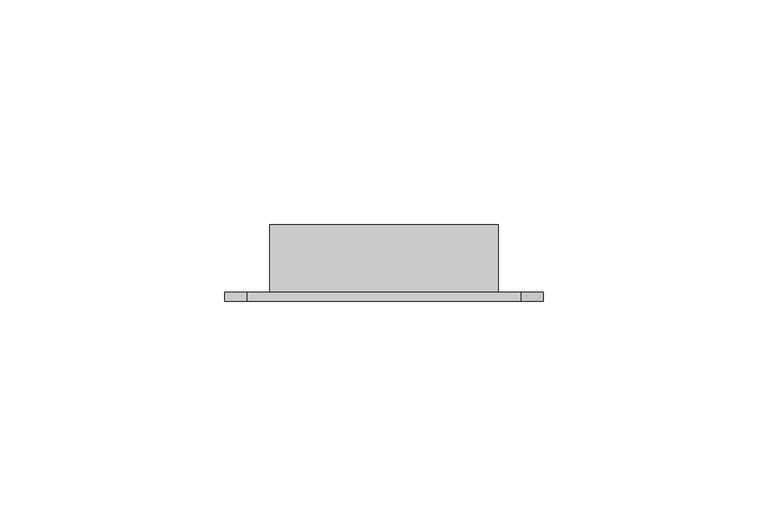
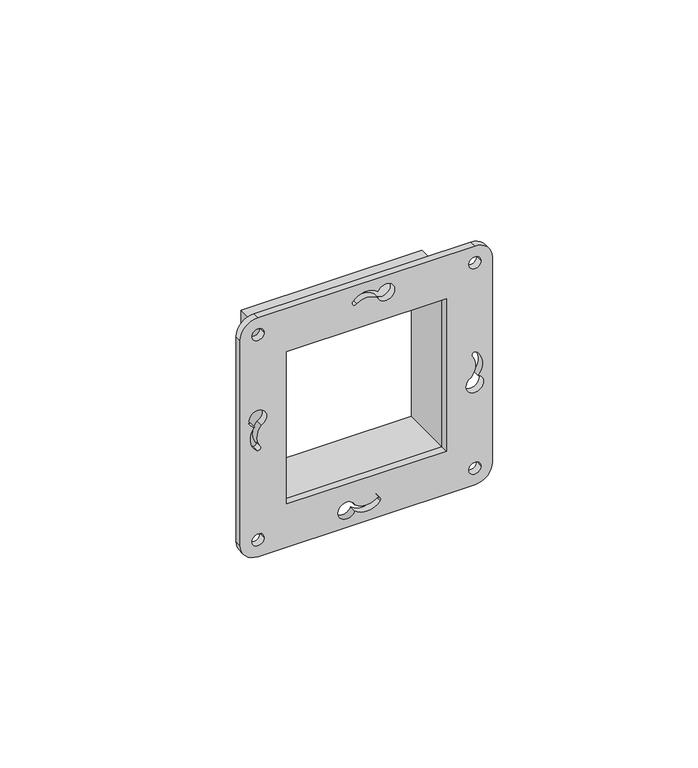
"""IFC4 building model written with IfcOpenShell, lengths in millimetres: proxy geometry, КНС_КаркасыДляМонтажаЭУИBravaВСтеныИКоробкиPDD-N60_DKC : 2 модуля."""

from ifc_helpers import new_model, si_unit, point, frame, frame_2d, origin, place, context, project, spatial, polyline, circle_curve, trimmed, segment, composite_curve, outline, extrude, source, transform, mapped, element, save


def electrical_fixtures_93c86673(model_context):
    return source(origin(), model_context, "Body", "SweptSolid", [
        extrude(outline(composite_curve([segment(polyline([(35.45, 30.45), (35.45, -30.45)]), True, "CONTINUOUS"), segment(trimmed(circle_curve(frame_2d((30.45, -30.45)), 5.0), [point((35.45, -30.45))], [point((30.45, -35.45))], False, "CARTESIAN"), True, "CONTINUOUS"), segment(polyline([(30.45, -35.45), (-30.45, -35.45)]), True, "CONTINUOUS"), segment(trimmed(circle_curve(frame_2d((-30.45, -30.45)), 5.0), [point((-30.45, -35.45))], [point((-35.45, -30.45))], False, "CARTESIAN"), True, "CONTINUOUS"), segment(polyline([(-35.45, -30.45), (-35.45, 30.45)]), True, "CONTINUOUS"), segment(trimmed(circle_curve(frame_2d((-30.45, 30.45)), 5.0), [point((-35.45, 30.45))], [point((-30.45, 35.45))], False, "CARTESIAN"), True, "CONTINUOUS"), segment(polyline([(-30.45, 35.45), (30.45, 35.45)]), True, "CONTINUOUS"), segment(trimmed(circle_curve(frame_2d((30.45, 30.45)), 5.0), [point((30.45, 35.45))], [point((35.45, 30.45))], False, "CARTESIAN"), True, "CONTINUOUS")], self_intersect=False), holes=[composite_curve([segment(trimmed(circle_curve(frame_2d((27.6263139, 0.0)), 5.0), [point((30.9017143, -3.7777973))], [point((31.4041112, 3.2754004))], True, "CARTESIAN"), True, "CONTINUOUS"), segment(trimmed(circle_curve(frame_2d((30.4923961, 5.5373597)), 2.4387876), [point((31.4041112, 3.2754004))], [point((29.5806809, 3.2754004))], True, "CARTESIAN"), True, "CONTINUOUS"), segment(trimmed(circle_curve(frame_2d((25.8028836, 0.0)), 5.0), [point((29.5806809, 3.2754004))], [point((29.9366866, -2.8127696))], False, "CARTESIAN"), True, "CONTINUOUS"), segment(trimmed(circle_curve(frame_2d((30.4535697, -3.2609142)), 0.6841065), [point((29.9366866, -2.8127696))], [point((30.9017143, -3.7777973))], True, "CARTESIAN"), True, "CONTINUOUS")], self_intersect=False), composite_curve([segment(trimmed(circle_curve(frame_2d((-27.6263139, 0.0)), 5.0), [point((-30.9017143, 3.7777973))], [point((-31.4041112, -3.2754004))], True, "CARTESIAN"), True, "CONTINUOUS"), segment(trimmed(circle_curve(frame_2d((-30.4923961, -5.5373597)), 2.4387876), [point((-31.4041112, -3.2754004))], [point((-29.5806809, -3.2754004))], True, "CARTESIAN"), True, "CONTINUOUS"), segment(trimmed(circle_curve(frame_2d((-25.8028836, 0.0)), 5.0), [point((-29.5806809, -3.2754004))], [point((-29.9366866, 2.8127696))], False, "CARTESIAN"), True, "CONTINUOUS"), segment(trimmed(circle_curve(frame_2d((-30.4535697, 3.2609142)), 0.6841065), [point((-29.9366866, 2.8127696))], [point((-30.9017143, 3.7777973))], True, "CARTESIAN"), True, "CONTINUOUS")], self_intersect=False), composite_curve([segment(trimmed(circle_curve(frame_2d((0.0, 27.6263139)), 5.0), [point((3.7777973, 30.9017143))], [point((-3.2754004, 31.4041112))], True, "CARTESIAN"), True, "CONTINUOUS"), segment(trimmed(circle_curve(frame_2d((-5.5373597, 30.4923961)), 2.4387876), [point((-3.2754004, 31.4041112))], [point((-3.2754004, 29.5806809))], True, "CARTESIAN"), True, "CONTINUOUS"), segment(trimmed(circle_curve(frame_2d((0.0, 25.8028836)), 5.0), [point((-3.2754004, 29.5806809))], [point((2.8127696, 29.9366866))], False, "CARTESIAN"), True, "CONTINUOUS"), segment(trimmed(circle_curve(frame_2d((3.2609142, 30.4535697)), 0.6841065), [point((2.8127696, 29.9366866))], [point((3.7777973, 30.9017143))], True, "CARTESIAN"), True, "CONTINUOUS")], self_intersect=False), composite_curve([segment(trimmed(circle_curve(frame_2d((0.0, -27.6263139)), 5.0), [point((-3.7777973, -30.9017143))], [point((3.2754004, -31.4041112))], True, "CARTESIAN"), True, "CONTINUOUS"), segment(trimmed(circle_curve(frame_2d((5.5373597, -30.4923961)), 2.4387876), [point((3.2754004, -31.4041112))], [point((3.2754004, -29.5806809))], True, "CARTESIAN"), True, "CONTINUOUS"), segment(trimmed(circle_curve(frame_2d((0.0, -25.8028836)), 5.0), [point((3.2754004, -29.5806809))], [point((-2.8127696, -29.9366866))], False, "CARTESIAN"), True, "CONTINUOUS"), segment(trimmed(circle_curve(frame_2d((-3.2609142, -30.4535697)), 0.6841065), [point((-2.8127696, -29.9366866))], [point((-3.7777973, -30.9017143))], True, "CARTESIAN"), True, "CONTINUOUS")], self_intersect=False), composite_curve([segment(trimmed(circle_curve(frame_2d((30.4923961, -30.4923961)), 1.707129), [point((30.4923961, -28.785267))], [point((30.4923961, -32.1995251))], True, "CARTESIAN"), True, "CONTINUOUS"), segment(trimmed(circle_curve(frame_2d((30.4923961, -30.4923961)), 1.707129), [point((30.4923961, -32.1995251))], [point((30.4923961, -28.785267))], True, "CARTESIAN"), True, "CONTINUOUS")], self_intersect=False), composite_curve([segment(trimmed(circle_curve(frame_2d((-30.4923961, -30.4923961)), 1.707129), [point((-30.4923961, -28.785267))], [point((-30.4923961, -32.1995251))], True, "CARTESIAN"), True, "CONTINUOUS"), segment(trimmed(circle_curve(frame_2d((-30.4923961, -30.4923961)), 1.707129), [point((-30.4923961, -32.1995251))], [point((-30.4923961, -28.785267))], True, "CARTESIAN"), True, "CONTINUOUS")], self_intersect=False), composite_curve([segment(trimmed(circle_curve(frame_2d((30.4923961, 30.4923961)), 1.707129), [point((30.4923961, 32.1995251))], [point((30.4923961, 28.785267))], True, "CARTESIAN"), True, "CONTINUOUS"), segment(trimmed(circle_curve(frame_2d((30.4923961, 30.4923961)), 1.707129), [point((30.4923961, 28.785267))], [point((30.4923961, 32.1995251))], True, "CARTESIAN"), True, "CONTINUOUS")], self_intersect=False), composite_curve([segment(trimmed(circle_curve(frame_2d((-30.4923961, 30.4923961)), 1.707129), [point((-30.4923961, 32.1995251))], [point((-30.4923961, 28.785267))], True, "CARTESIAN"), True, "CONTINUOUS"), segment(trimmed(circle_curve(frame_2d((-30.4923961, 30.4923961)), 1.707129), [point((-30.4923961, 28.785267))], [point((-30.4923961, 32.1995251))], True, "CARTESIAN"), True, "CONTINUOUS")], self_intersect=False), polyline([(22.6231857, 22.45), (-22.6231857, 22.45), (-22.6231857, -22.45), (22.6231857, -22.45), (22.6231857, 22.45)])]), frame((0.0, -2.0, 0.0), z_axis=(0.0, 1.0, 0.0), x_axis=(0.0, 0.0, 1.0)), (0.0, 0.0, 1.0), 2.0),
        extrude(outline(polyline([(25.6231857, 25.45), (25.6231857, -25.45), (-25.6231857, -25.45), (-25.6231857, 25.45), (25.6231857, 25.45)]), holes=[polyline([(22.6231857, 22.45), (-22.6231857, 22.45), (-22.6231857, -22.45), (22.6231857, -22.45), (22.6231857, 22.45)])]), frame((0.0, 0.0, 0.0), z_axis=(0.0, 1.0, 0.0), x_axis=(0.0, 0.0, 1.0)), (0.0, 0.0, 1.0), 15.0),
    ])


if __name__ == "__main__":
    model = new_model("IFC4")
    model_context = context("Model", 3, world=origin())
    ifc_project = project(units=[si_unit("LENGTHUNIT", "METRE", prefix="MILLI")], contexts=[model_context])
    site = spatial("IfcSite", under=ifc_project)
    building = spatial("IfcBuilding", under=site)
    placement = place(None, origin())
    electrical_fixtures_shape = electrical_fixtures_93c86673(model_context)
    element("IfcBuildingElementProxy", 1, Name="КНС_КаркасыДляМонтажаЭУИBravaВСтеныИКоробкиPDD-N60_DKC : 2 модуля", ObjectType="КНС_КаркасыДляМонтажаЭУИBravaВСтеныИКоробкиPDD-N60_DKC : 2 модуля", at=placement, inside=building, context=model_context, shape_type="MappedRepresentation", body=[
        mapped(electrical_fixtures_shape, transform((0.0, 0.0, 0.0), x_axis=(1.0, 0.0, 0.0), y_axis=(0.0, 1.0, 0.0), z_axis=(0.0, 0.0, 1.0))),
    ])
    save(model, "model.ifc")
